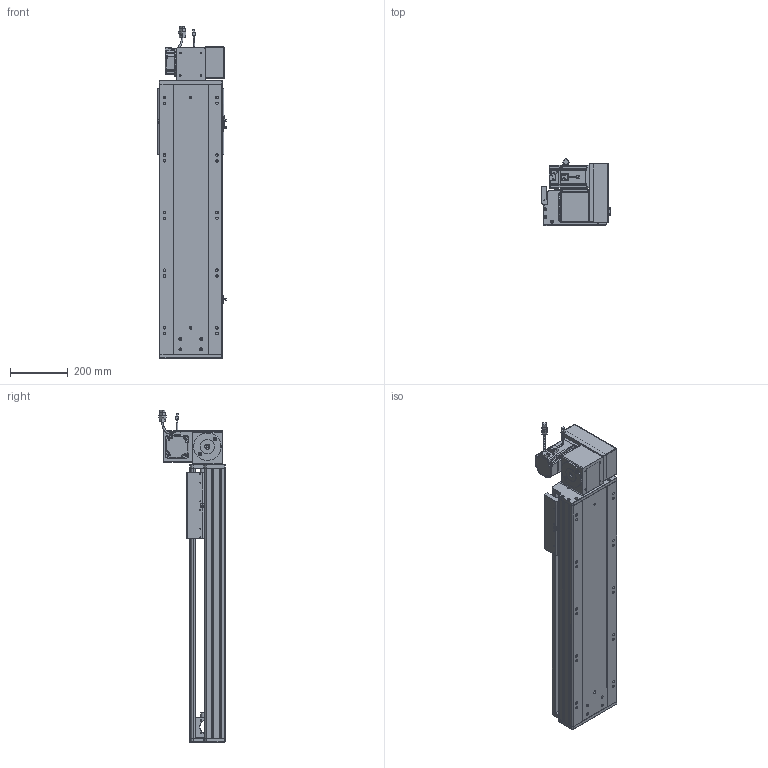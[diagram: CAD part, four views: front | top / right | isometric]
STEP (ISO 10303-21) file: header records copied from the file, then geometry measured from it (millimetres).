
FILE_DESCRIPTION (( 'STEP AP203' ), '1' );
FILE_NAME ('RY220-T-300-UR.SLDASM_600.step', '2022-07-25T08:42:49', ( '' ), ( '' ), 'SwSTEP 2.0', 'SolidWorks 2016', '' );
FILE_SCHEMA (( 'CONFIG_CONTROL_DESIGN' ));
Length unit declared in the file: millimetre
Products named in the file (14): RY220-俋离672覜茼んえ; 滅袉蝶18-15; RY220翋肮祭謫釱; 覜茼ん672; RY220-T-300-奻裔啣_600; 怢湛750W_ECMA-CX0807ES; RY220-T菁釱-300_600; RY220-T-湍謫欶(鍼踢); RY220-T-300-UR.SLDASM_600; 110A-T-肮祭謫釱傷裔; RY220翋肮祭謫裔啣; RY220-T-蛌殏萇儂假蚾啣(750W); RY220-同步轮副支撑座6304×2; RY220圉猾敕々湍臏賑輸
Assembly tree (18 placements, depth 2):
  RY220-T-300-UR.SLDASM_600
    RY220-T菁釱-300_600
    RY220翋肮祭謫釱
    覜茼ん672  x3
    RY220圉猾敕々湍臏賑輸
    RY220-T-300-奻裔啣_600
    RY220-俋离672覜茼んえ
    滅袉蝶18-15  x3
    RY220翋肮祭謫裔啣  x2
    110A-T-肮祭謫釱傷裔
    怢湛750W_ECMA-CX0807ES
    RY220-T-湍謫欶(鍼踢)
    RY220-T-蛌殏萇儂假蚾啣(750W)
    RY220-同步轮副支撑座6304×2
Bounding box: 238.7 x 231.74 x 1153.27 mm (x, y, z)
Volume: 9673697.2 mm3; surface area: 2736095.2 mm2
Topology: 19 solids, 19 shells, 2540 faces, 6999 edges, 4456 vertices
Faces by surface type: cylinder 1168, plane 1069, cone 221, bspline 56, sphere 16, torus 10
Entity records: 84355 total; most frequent: CARTESIAN_POINT 24123, ORIENTED_EDGE 12538, DIRECTION 11772, EDGE_CURVE 6269, AXIS2_PLACEMENT_3D 4134, VERTEX_POINT 4080, LINE 3504, VECTOR 3504
